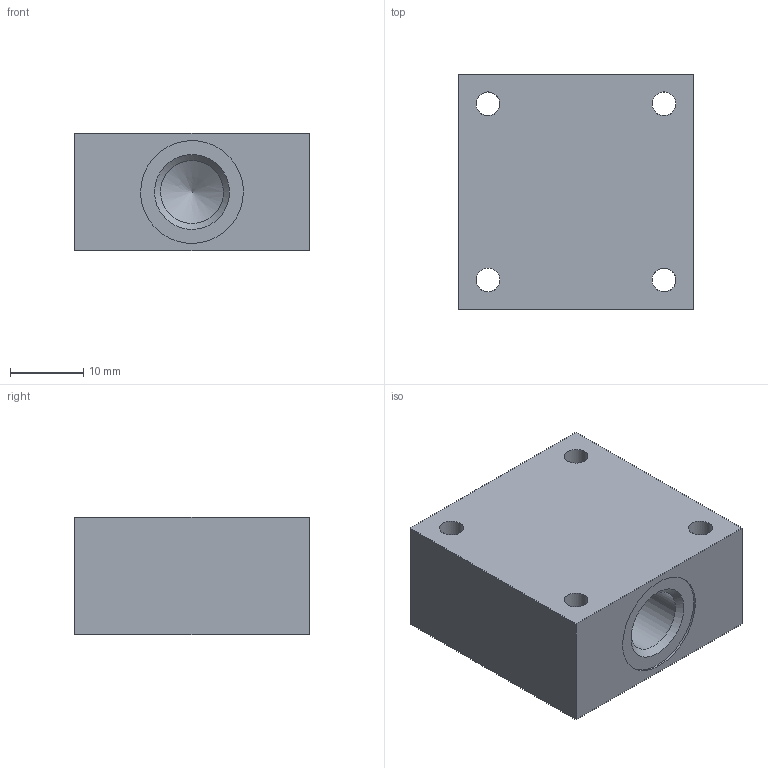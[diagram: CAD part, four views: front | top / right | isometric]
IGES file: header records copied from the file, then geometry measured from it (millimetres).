
Global section: file name: 300_04_00; native system: Autodesk Inventor 2014; preprocessor: unknown; author: A. Manieri; organization: Pneumax S.p.A.; date: 20161004.163546; units: millimetre
Bounding box: 32 x 32 x 16 mm (x, y, z)
Volume: 14094.9 mm3; surface area: 5421.6 mm2
Topology: 1 solids, 1 shells, 24 faces, 64 edges, 46 vertices
Faces by surface type: bspline 24
